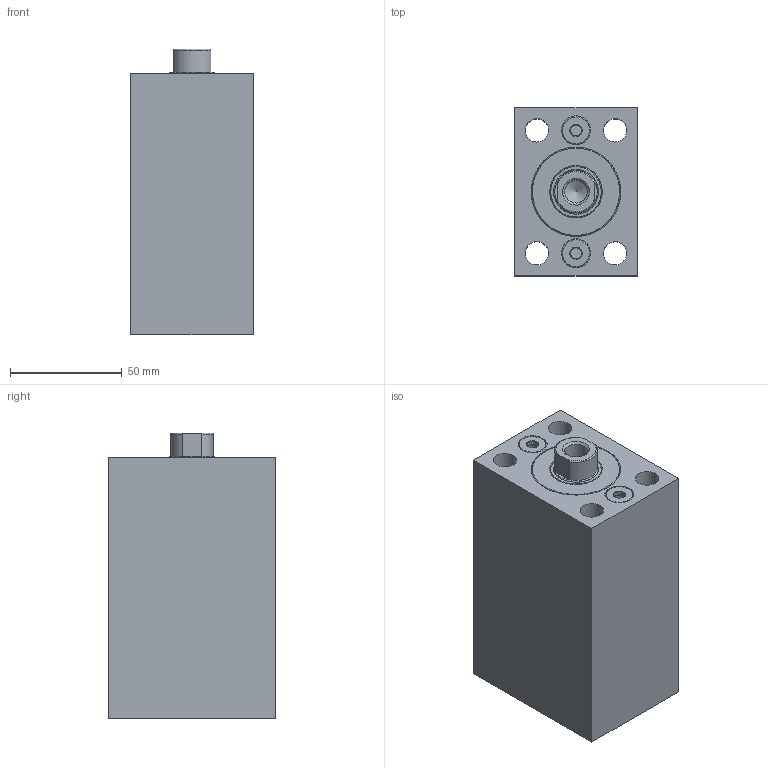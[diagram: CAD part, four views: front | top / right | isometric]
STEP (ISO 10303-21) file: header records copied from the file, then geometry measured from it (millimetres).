
FILE_DESCRIPTION( ( 'STEP AP203' ), '1' );
FILE_NAME( 'C:/Users/SAYKO.ltd/Desktop/SBZ100/07/SBZ100-32/SBZ100.32__FORM_07_STROKE_45__H2_47_POS_0_.stp', ' ', ( ' ' ), ( ' ' ), 'PSStep 15.0.47', 'PARTsolutions', ' ' );
FILE_SCHEMA( ( 'CONFIG_CONTROL_DESIGN' ) );
Length unit declared in the file: millimetre
Products named in the file (5): SBZ100.32  FORM=07 STROKE=45 (H2=47 POS=0); HI_SBZ10032  FORM=07 STROKE=45 H2=47 -C; HI_SBZ10032  FORM=07 STROKE=45-R; HI_SBZ100.32-C; HI_SBZ100.32-S
Assembly tree (4 placements, depth 2):
  SBZ100.32  FORM=07 STROKE=45 (H2=47 POS=0)
    HI_SBZ10032  FORM=07 STROKE=45 H2=47 -C
    HI_SBZ10032  FORM=07 STROKE=45-R
    HI_SBZ100.32-C
    HI_SBZ100.32-S
Bounding box: 55 x 75 x 128 mm (x, y, z)
Volume: 411768.8 mm3; surface area: 87266.6 mm2
Topology: 4 solids, 4 shells, 74 faces, 136 edges, 87 vertices
Faces by surface type: plane 33, cylinder 28, cone 10, torus 3
Full cylindrical faces by diameter (mm): 5 x4, 10.106 x1, 10.5 x4, 13 x2, 18 x4, 20 x4, 23.5 x1, 28 x2, 32 x2, 40 x2
Entity records: 3847 total; most frequent: CARTESIAN_POINT 2517, ORIENTED_EDGE 188, DIRECTION 178, EDGE_LOOP 140, FACE_OUTER_BOUND 101, EDGE_CURVE 94, VERTEX_POINT 83, AXIS2_PLACEMENT_3D 81
